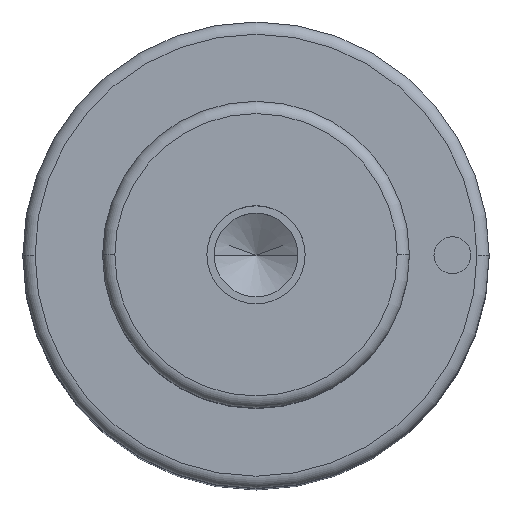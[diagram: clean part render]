
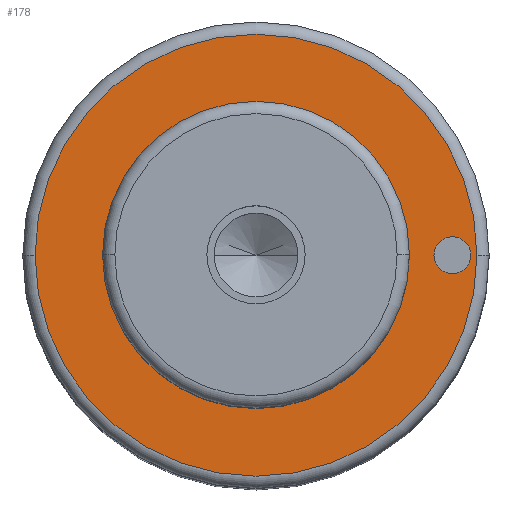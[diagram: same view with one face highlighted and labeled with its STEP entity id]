
A CAD part, top view. The second image highlights one B-rep face of the part: STEP entity #178.
In plain terms, the highlighted planar face has unit normal (0, 0, 1).
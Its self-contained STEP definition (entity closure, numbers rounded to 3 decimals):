
#105=PLANE('',#866);
#115=FACE_BOUND('',#283,.T.);
#116=FACE_BOUND('',#284,.T.);
#117=FACE_BOUND('',#285,.T.);
#178=ADVANCED_FACE('',(#115,#116,#117),#105,.T.);
#283=EDGE_LOOP('',(#473,#474));
#284=EDGE_LOOP('',(#475,#476));
#285=EDGE_LOOP('',(#477,#478));
#333=CIRCLE('',#834,12.5);
#334=CIRCLE('',#836,12.5);
#338=CIRCLE('',#841,18.);
#339=CIRCLE('',#843,18.);
#351=CIRCLE('',#864,1.5);
#352=CIRCLE('',#865,1.5);
#473=ORIENTED_EDGE('',*,*,#666,.F.);
#474=ORIENTED_EDGE('',*,*,#667,.F.);
#475=ORIENTED_EDGE('',*,*,#685,.F.);
#476=ORIENTED_EDGE('',*,*,#686,.F.);
#477=ORIENTED_EDGE('',*,*,#662,.T.);
#478=ORIENTED_EDGE('',*,*,#660,.T.);
#590=VERTEX_POINT('',#1233);
#591=VERTEX_POINT('',#1235);
#592=VERTEX_POINT('',#1241);
#595=VERTEX_POINT('',#1246);
#604=VERTEX_POINT('',#1285);
#605=VERTEX_POINT('',#1286);
#660=EDGE_CURVE('',#591,#590,#333,.T.);
#662=EDGE_CURVE('',#590,#591,#334,.T.);
#666=EDGE_CURVE('',#595,#592,#338,.T.);
#667=EDGE_CURVE('',#592,#595,#339,.T.);
#685=EDGE_CURVE('',#604,#605,#351,.T.);
#686=EDGE_CURVE('',#605,#604,#352,.T.);
#834=AXIS2_PLACEMENT_3D('',#1234,#985,#986);
#836=AXIS2_PLACEMENT_3D('',#1238,#990,#991);
#841=AXIS2_PLACEMENT_3D('',#1247,#1000,#1001);
#843=AXIS2_PLACEMENT_3D('',#1249,#1004,#1005);
#864=AXIS2_PLACEMENT_3D('',#1284,#1052,#1053);
#865=AXIS2_PLACEMENT_3D('',#1287,#1054,#1055);
#866=AXIS2_PLACEMENT_3D('',#1288,#1056,#1057);
#985=DIRECTION('',(0.,0.,-1.));
#986=DIRECTION('',(0.,1.,0.));
#990=DIRECTION('',(0.,0.,-1.));
#991=DIRECTION('',(0.,-1.,0.));
#1000=DIRECTION('',(0.,0.,-1.));
#1001=DIRECTION('',(0.,1.,0.));
#1004=DIRECTION('',(0.,0.,-1.));
#1005=DIRECTION('',(0.,-1.,0.));
#1052=DIRECTION('',(0.,0.,1.));
#1053=DIRECTION('',(0.,1.,0.));
#1054=DIRECTION('',(0.,0.,1.));
#1055=DIRECTION('',(0.,-1.,0.));
#1056=DIRECTION('',(0.,0.,1.));
#1057=DIRECTION('',(0.,-1.,0.));
#1233=CARTESIAN_POINT('',(-12.5,0.,73.));
#1234=CARTESIAN_POINT('',(0.,0.,73.));
#1235=CARTESIAN_POINT('',(12.5,0.,73.));
#1238=CARTESIAN_POINT('',(0.,0.,73.));
#1241=CARTESIAN_POINT('',(-18.,0.,73.));
#1246=CARTESIAN_POINT('',(18.,0.,73.));
#1247=CARTESIAN_POINT('',(0.,0.,73.));
#1249=CARTESIAN_POINT('',(0.,0.,73.));
#1284=CARTESIAN_POINT('',(16.,0.,73.));
#1285=CARTESIAN_POINT('',(14.5,0.,73.));
#1286=CARTESIAN_POINT('',(17.5,0.,73.));
#1287=CARTESIAN_POINT('',(16.,0.,73.));
#1288=CARTESIAN_POINT('',(0.,0.,73.));
